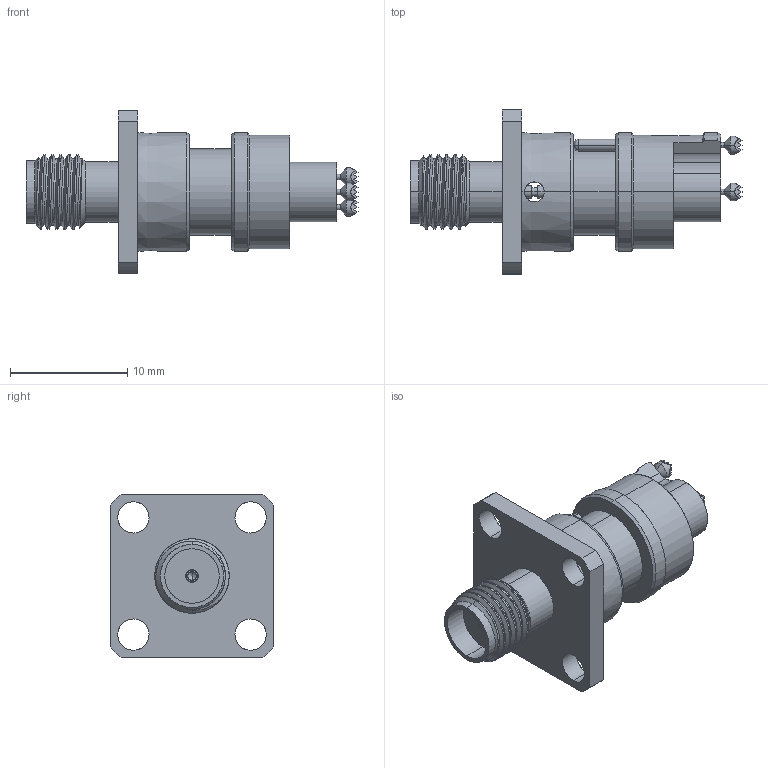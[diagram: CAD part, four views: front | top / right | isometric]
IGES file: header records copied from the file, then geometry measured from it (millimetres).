
Start section: SolidWorks IGES file using analytic representation for surfaces
Global section: file name: Z:\probe solid model mockups\Solidworks models\IGES Files\K-50H-S-SPL-01H-116 IGES files\K-50H-S-SPL-01H-116 RECD.IGS; native system: SolidWorks 2006 by SolidWorks Corporation; preprocessor: SolidWorks 2006 by SolidWorks Corporation; author: tsakatani; date: 080108.091004; units: inch
Bounding box: 28.35 x 14 x 14 mm (x, y, z)
Surface area: 1422.5 mm2 (no closed solid volume)
Topology: 0 solids, 0 shells, 233 faces, 2705 edges, 2703 vertices
Faces by surface type: bspline 120, revolution 113
